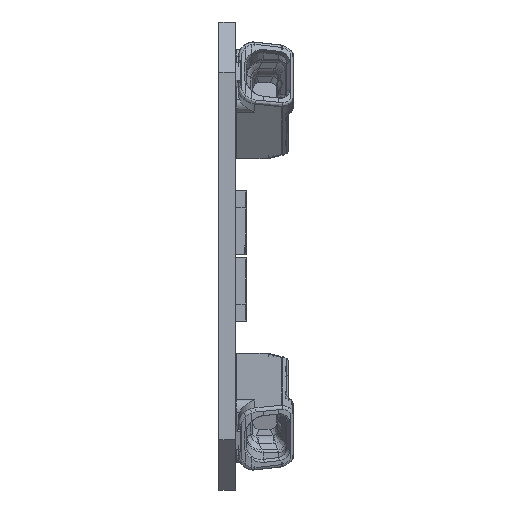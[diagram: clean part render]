
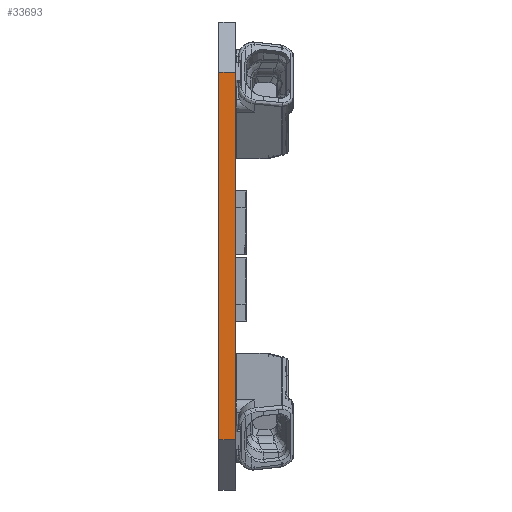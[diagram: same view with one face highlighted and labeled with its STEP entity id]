
A CAD part, left-side view. The second image highlights one B-rep face of the part: STEP entity #33693.
In plain terms, the highlighted planar face has unit normal (-1, 0, 0).
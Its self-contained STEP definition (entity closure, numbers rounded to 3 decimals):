
#2060=ORIENTED_EDGE('',*,*,#9283,.F.);
#2061=ORIENTED_EDGE('',*,*,#9310,.F.);
#2062=ORIENTED_EDGE('',*,*,#9311,.T.);
#2063=ORIENTED_EDGE('',*,*,#9312,.T.);
#9283=EDGE_CURVE('',#12911,#12912,#15187,.T.);
#9310=EDGE_CURVE('',#12935,#12911,#15214,.T.);
#9311=EDGE_CURVE('',#12935,#12936,#15215,.T.);
#9312=EDGE_CURVE('',#12936,#12912,#15216,.T.);
#12911=VERTEX_POINT('',#42980);
#12912=VERTEX_POINT('',#42982);
#12935=VERTEX_POINT('',#43034);
#12936=VERTEX_POINT('',#43038);
#15187=LINE('',#42981,#17575);
#15214=LINE('',#43035,#17602);
#15215=LINE('',#43037,#17603);
#15216=LINE('',#43039,#17604);
#17575=VECTOR('',#37033,1000.);
#17602=VECTOR('',#37066,1000.);
#17603=VECTOR('',#37069,1000.);
#17604=VECTOR('',#37070,1000.);
#19856=EDGE_LOOP('',(#2060,#2061,#2062,#2063));
#21398=FACE_BOUND('',#19856,.T.);
#22896=PLANE('',#35148);
#33693=ADVANCED_FACE('',(#21398),#22896,.T.);
#35148=AXIS2_PLACEMENT_3D('',#43036,#37067,#37068);
#37033=DIRECTION('',(0.,0.,-1.));
#37066=DIRECTION('',(0.,-1.,0.));
#37067=DIRECTION('',(-1.,0.,0.));
#37068=DIRECTION('',(0.,0.,1.));
#37069=DIRECTION('',(0.,0.,-1.));
#37070=DIRECTION('',(0.,-1.,0.));
#42980=CARTESIAN_POINT('',(-139.5,0.,11.));
#42981=CARTESIAN_POINT('',(-139.5,0.,11.));
#42982=CARTESIAN_POINT('',(-139.5,0.,-11.));
#43034=CARTESIAN_POINT('',(-139.5,1.,11.));
#43035=CARTESIAN_POINT('',(-139.5,1.6,11.));
#43036=CARTESIAN_POINT('',(-139.5,1.6,11.));
#43037=CARTESIAN_POINT('',(-139.5,1.,11.));
#43038=CARTESIAN_POINT('',(-139.5,1.,-11.));
#43039=CARTESIAN_POINT('',(-139.5,1.6,-11.));
